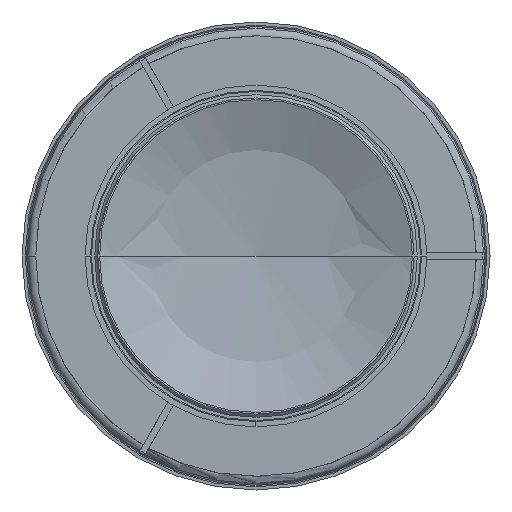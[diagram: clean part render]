
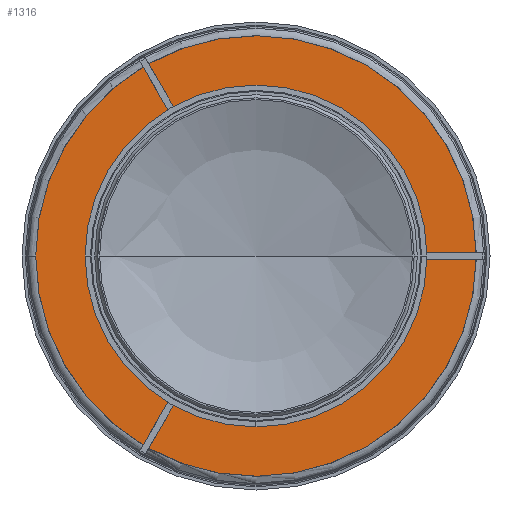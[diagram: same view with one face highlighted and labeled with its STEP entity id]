
A CAD part, front view. The second image highlights one B-rep face of the part: STEP entity #1316.
In plain terms, the highlighted planar face has unit normal (0, -1, 0).
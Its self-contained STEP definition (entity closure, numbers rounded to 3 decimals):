
#245=CARTESIAN_POINT('',(0.,15.,0.));
#246=DIRECTION('',(0.,1.,0.));
#247=DIRECTION('',(1.,0.,0.));
#248=AXIS2_PLACEMENT_3D('',#245,#246,#247);
#250=CARTESIAN_POINT('',(0.,15.,0.));
#251=DIRECTION('',(0.,-1.,0.));
#252=DIRECTION('',(1.,0.,0.));
#253=AXIS2_PLACEMENT_3D('',#250,#251,#252);
#255=DIRECTION('',(1.,0.,0.));
#256=VECTOR('',#255,24.073);
#257=CARTESIAN_POINT('',(79.,15.,1.5));
#258=LINE('',#257,#256);
#309=CARTESIAN_POINT('',(0.,15.,0.));
#310=DIRECTION('',(0.,-1.,0.));
#311=DIRECTION('',(1.,0.,0.015));
#312=AXIS2_PLACEMENT_3D('',#309,#310,#311);
#314=CARTESIAN_POINT('',(0.,15.,0.));
#315=DIRECTION('',(0.,-1.,0.));
#316=DIRECTION('',(-0.513,0.,0.859));
#317=AXIS2_PLACEMENT_3D('',#314,#315,#316);
#328=DIRECTION('',(-0.5,0.,0.866));
#329=VECTOR('',#328,24.073);
#330=CARTESIAN_POINT('',(-38.201,15.,69.166));
#331=LINE('',#330,#329);
#368=DIRECTION('',(-0.866,0.,-0.5));
#369=VECTOR('',#368,3.);
#370=CARTESIAN_POINT('',(-38.201,15.,69.166));
#371=LINE('',#370,#369);
#372=DIRECTION('',(-0.5,0.,0.866));
#373=VECTOR('',#372,24.073);
#374=CARTESIAN_POINT('',(-40.799,15.,67.666));
#375=LINE('',#374,#373);
#446=CARTESIAN_POINT('',(0.,15.,0.));
#447=DIRECTION('',(0.,1.,0.));
#448=DIRECTION('',(-0.513,0.,-0.859));
#449=AXIS2_PLACEMENT_3D('',#446,#447,#448);
#451=CARTESIAN_POINT('',(0.,15.,0.));
#452=DIRECTION('',(0.,1.,0.));
#453=DIRECTION('',(1.,0.,-0.015));
#454=AXIS2_PLACEMENT_3D('',#451,#452,#453);
#589=DIRECTION('',(-0.5,0.,-0.866));
#590=VECTOR('',#589,24.073);
#591=CARTESIAN_POINT('',(-40.799,15.,-67.666));
#592=LINE('',#591,#590);
#629=DIRECTION('',(0.866,0.,-0.5));
#630=VECTOR('',#629,3.);
#631=CARTESIAN_POINT('',(-40.799,15.,-67.666));
#632=LINE('',#631,#630);
#633=DIRECTION('',(-0.5,0.,-0.866));
#634=VECTOR('',#633,24.073);
#635=CARTESIAN_POINT('',(-38.201,15.,-69.166));
#636=LINE('',#635,#634);
#697=DIRECTION('',(1.,0.,0.));
#698=VECTOR('',#697,24.073);
#699=CARTESIAN_POINT('',(79.,15.,-1.5));
#700=LINE('',#699,#698);
#737=DIRECTION('',(0.,0.,1.));
#738=VECTOR('',#737,3.);
#739=CARTESIAN_POINT('',(79.,15.,-1.5));
#740=LINE('',#739,#738);
#993=CARTESIAN_POINT('',(77.5,15.,0.));
#994=CARTESIAN_POINT('',(-77.5,15.,0.));
#995=VERTEX_POINT('',#993);
#996=VERTEX_POINT('',#994);
#1021=CARTESIAN_POINT('',(-103.084,15.,0.));
#1023=VERTEX_POINT('',#1021);
#1035=CARTESIAN_POINT('',(79.,15.,1.5));
#1036=CARTESIAN_POINT('',(103.073,15.,1.5));
#1037=VERTEX_POINT('',#1035);
#1038=VERTEX_POINT('',#1036);
#1039=CARTESIAN_POINT('',(79.,15.,-1.5));
#1040=CARTESIAN_POINT('',(103.073,15.,-1.5));
#1041=VERTEX_POINT('',#1039);
#1042=VERTEX_POINT('',#1040);
#1045=CARTESIAN_POINT('',(-40.799,15.,67.666));
#1046=CARTESIAN_POINT('',(-52.835,15.,88.514));
#1047=VERTEX_POINT('',#1045);
#1048=VERTEX_POINT('',#1046);
#1049=CARTESIAN_POINT('',(-38.201,15.,69.166));
#1050=CARTESIAN_POINT('',(-50.237,15.,90.014));
#1051=VERTEX_POINT('',#1049);
#1052=VERTEX_POINT('',#1050);
#1053=CARTESIAN_POINT('',(-38.201,15.,-69.166));
#1054=CARTESIAN_POINT('',(-50.237,15.,-90.014));
#1055=VERTEX_POINT('',#1053);
#1056=VERTEX_POINT('',#1054);
#1057=CARTESIAN_POINT('',(-40.799,15.,-67.666));
#1058=CARTESIAN_POINT('',(-52.835,15.,-88.514));
#1059=VERTEX_POINT('',#1057);
#1060=VERTEX_POINT('',#1058);
#1279=CARTESIAN_POINT('',(0.,15.,0.));
#1280=DIRECTION('',(0.,-1.,0.));
#1281=DIRECTION('',(-1.,0.,0.));
#1282=AXIS2_PLACEMENT_3D('',#1279,#1280,#1281);
#1283=PLANE('',#1282);
#1285=ORIENTED_EDGE('',*,*,#1284,.F.);
#1287=ORIENTED_EDGE('',*,*,#1286,.F.);
#1289=ORIENTED_EDGE('',*,*,#1288,.T.);
#1291=ORIENTED_EDGE('',*,*,#1290,.T.);
#1293=ORIENTED_EDGE('',*,*,#1292,.F.);
#1295=ORIENTED_EDGE('',*,*,#1294,.F.);
#1297=ORIENTED_EDGE('',*,*,#1296,.T.);
#1299=ORIENTED_EDGE('',*,*,#1298,.T.);
#1301=ORIENTED_EDGE('',*,*,#1300,.F.);
#1303=ORIENTED_EDGE('',*,*,#1302,.F.);
#1305=ORIENTED_EDGE('',*,*,#1304,.F.);
#1307=ORIENTED_EDGE('',*,*,#1306,.T.);
#1309=ORIENTED_EDGE('',*,*,#1308,.F.);
#1310=EDGE_LOOP('',(#1285,#1287,#1289,#1291,#1293,#1295,#1297,#1299,#1301,#1303,
#1305,#1307,#1309));
#1311=FACE_OUTER_BOUND('',#1310,.F.);
#1312=ORIENTED_EDGE('',*,*,#1261,.F.);
#1313=ORIENTED_EDGE('',*,*,#1246,.T.);
#1314=EDGE_LOOP('',(#1312,#1313));
#1315=FACE_BOUND('',#1314,.F.);
#249=CIRCLE('',#248,77.5);
#254=CIRCLE('',#253,77.5);
#313=CIRCLE('',#312,103.084);
#318=CIRCLE('',#317,103.084);
#450=CIRCLE('',#449,103.084);
#455=CIRCLE('',#454,103.084);
#1246=EDGE_CURVE('',#995,#996,#254,.T.);
#1261=EDGE_CURVE('',#995,#996,#249,.T.);
#1284=EDGE_CURVE('',#1037,#1038,#258,.T.);
#1286=EDGE_CURVE('',#1041,#1037,#740,.T.);
#1288=EDGE_CURVE('',#1041,#1042,#700,.T.);
#1290=EDGE_CURVE('',#1042,#1056,#455,.T.);
#1292=EDGE_CURVE('',#1055,#1056,#636,.T.);
#1294=EDGE_CURVE('',#1059,#1055,#632,.T.);
#1296=EDGE_CURVE('',#1059,#1060,#592,.T.);
#1298=EDGE_CURVE('',#1060,#1023,#450,.T.);
#1300=EDGE_CURVE('',#1048,#1023,#318,.T.);
#1302=EDGE_CURVE('',#1047,#1048,#375,.T.);
#1304=EDGE_CURVE('',#1051,#1047,#371,.T.);
#1306=EDGE_CURVE('',#1051,#1052,#331,.T.);
#1308=EDGE_CURVE('',#1038,#1052,#313,.T.);
#1316=ADVANCED_FACE('',(#1311,#1315),#1283,.T.);
